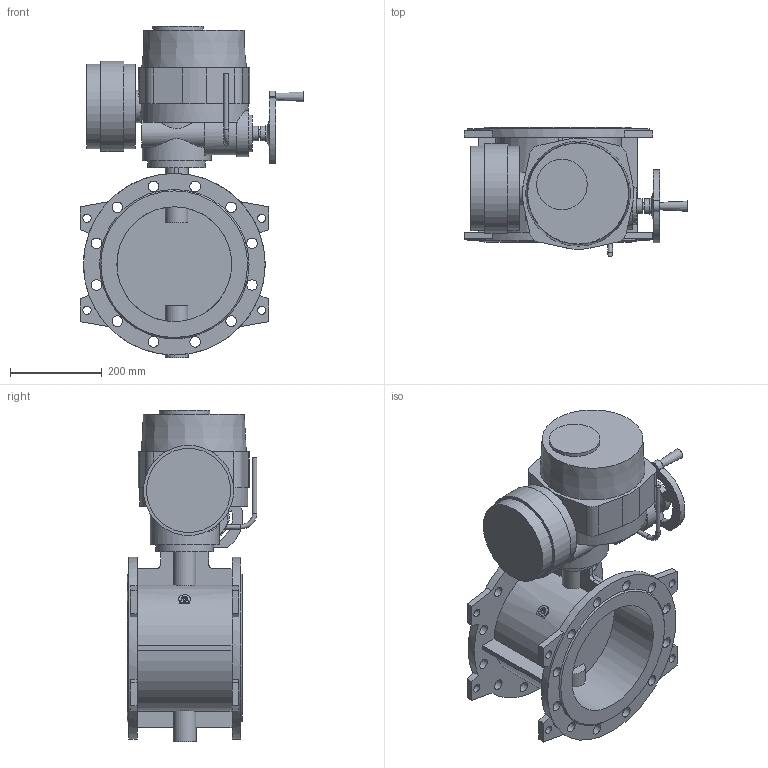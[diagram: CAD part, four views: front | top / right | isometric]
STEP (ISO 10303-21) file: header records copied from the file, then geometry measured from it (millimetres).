
FILE_DESCRIPTION(('STEP AP203'), '1');
FILE_NAME('Çàòâîð 023F.Z DN250 PN10 + ýëåêòðîïðèâîä QT.A050', '', ('UNSPECIFIED'), ('UNSPECIFIED'), 'ASCON STEP Converter 1.6', 'ASCON Math Kernel', '');
FILE_SCHEMA(('CONFIG_CONTROL_DESIGN'));
Length unit declared in the file: millimetre
Bounding box: 487 x 282 x 720 mm (x, y, z)
Volume: 21672829.1 mm3; surface area: 1395768.2 mm2
Topology: 1 solids, 1 shells, 241 faces, 608 edges, 401 vertices
Faces by surface type: plane 133, cylinder 102, cone 5, torus 1
Full cylindrical faces by diameter (mm): 6.7 x8, 10 x2, 12 x4, 16 x1, 18 x8, 23 x24, 32 x2, 35 x1, 50 x1, 70 x1, 80 x1, 100 x1, 110 x1, 125 x1, 150 x1, 183 x2, 196 x1, 250 x2, 395 x2
Entity records: 10720 total; most frequent: CARTESIAN_POINT 2904, DIRECTION 1239, ORIENTED_EDGE 1076, EDGE_CURVE 538, AXIS2_PLACEMENT_3D 487, EDGE_LOOP 413, VERTEX_POINT 401, FACE_BOUND 285
